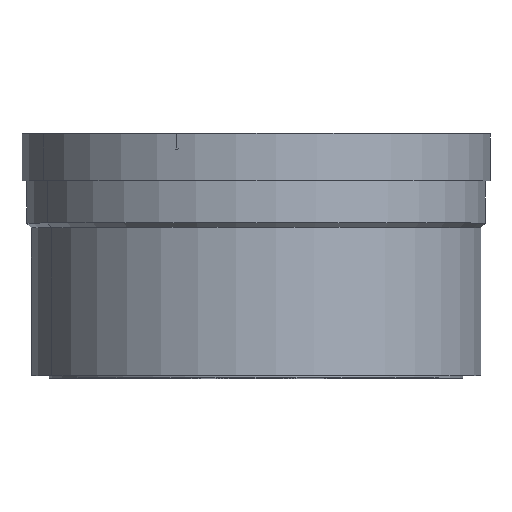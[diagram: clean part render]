
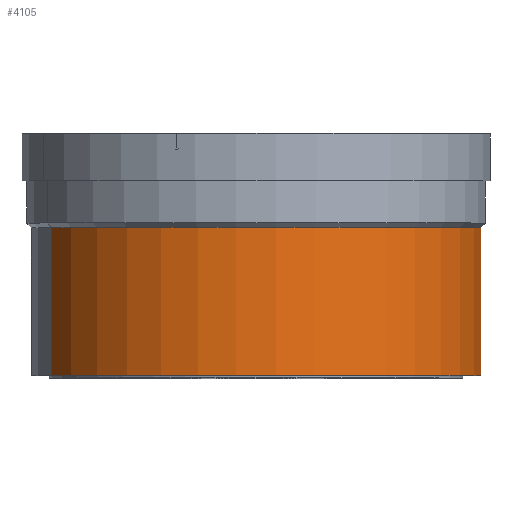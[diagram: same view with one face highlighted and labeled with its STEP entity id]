
A CAD part, top view. The second image highlights one B-rep face of the part: STEP entity #4105.
In plain terms, the highlighted cylindrical face has radius 48 mm (diameter 96 mm), a partial arc.
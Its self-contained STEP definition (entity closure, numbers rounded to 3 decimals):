
#432=CARTESIAN_POINT('',(0.,-3.,0.));
#433=DIRECTION('',(0.,1.,0.));
#434=DIRECTION('',(-0.906,0.,0.423));
#435=AXIS2_PLACEMENT_3D('',#432,#433,#434);
#437=DIRECTION('',(0.,-1.,0.));
#438=VECTOR('',#437,31.5);
#439=CARTESIAN_POINT('',(-43.503,-3.,20.286));
#440=LINE('',#439,#438);
#441=DIRECTION('',(0.,1.,0.));
#442=VECTOR('',#441,31.5);
#443=CARTESIAN_POINT('',(43.503,-34.5,-20.286));
#444=LINE('',#443,#442);
#455=CARTESIAN_POINT('',(0.,-34.5,0.));
#456=DIRECTION('',(0.,1.,0.));
#457=DIRECTION('',(-0.906,0.,0.423));
#458=AXIS2_PLACEMENT_3D('',#455,#456,#457);
#3093=CARTESIAN_POINT('',(-43.503,-3.,20.286));
#3095=VERTEX_POINT('',#3093);
#3098=CARTESIAN_POINT('',(43.503,-3.,-20.286));
#3100=VERTEX_POINT('',#3098);
#3101=CARTESIAN_POINT('',(-43.503,-34.5,20.286));
#3102=VERTEX_POINT('',#3101);
#3103=CARTESIAN_POINT('',(43.503,-34.5,-20.286));
#3104=VERTEX_POINT('',#3103);
#4091=CARTESIAN_POINT('',(0.,-35.13,0.));
#4092=DIRECTION('',(0.,1.,0.));
#4093=DIRECTION('',(0.906,0.,-0.423));
#4094=AXIS2_PLACEMENT_3D('',#4091,#4092,#4093);
#4095=CYLINDRICAL_SURFACE('',#4094,48.);
#4097=ORIENTED_EDGE('',*,*,#4096,.F.);
#4098=ORIENTED_EDGE('',*,*,#4086,.T.);
#4100=ORIENTED_EDGE('',*,*,#4099,.F.);
#4102=ORIENTED_EDGE('',*,*,#4101,.F.);
#4103=EDGE_LOOP('',(#4097,#4098,#4100,#4102));
#4104=FACE_OUTER_BOUND('',#4103,.F.);
#436=CIRCLE('',#435,48.);
#459=CIRCLE('',#458,48.);
#4086=EDGE_CURVE('',#3095,#3100,#436,.T.);
#4096=EDGE_CURVE('',#3095,#3102,#440,.T.);
#4099=EDGE_CURVE('',#3104,#3100,#444,.T.);
#4101=EDGE_CURVE('',#3102,#3104,#459,.T.);
#4105=ADVANCED_FACE('',(#4104),#4095,.T.);
